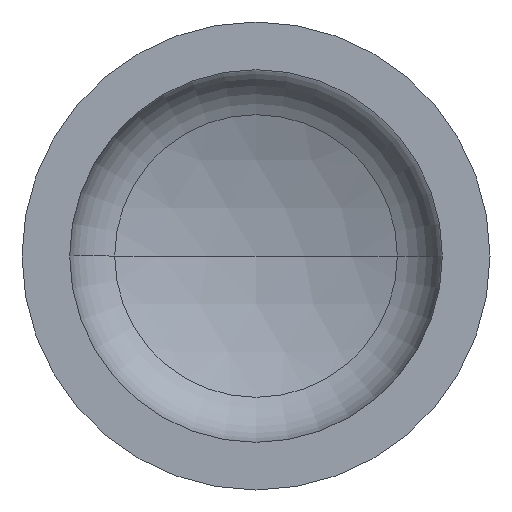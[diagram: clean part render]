
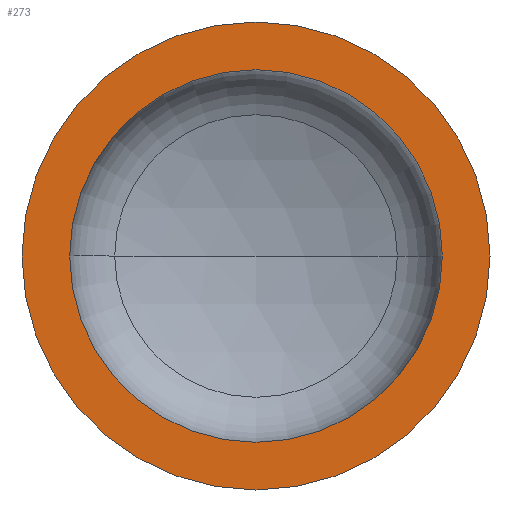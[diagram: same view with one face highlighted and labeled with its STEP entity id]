
A CAD part, front view. The second image highlights one B-rep face of the part: STEP entity #273.
In plain terms, the highlighted planar face has unit normal (0, -1, 0).
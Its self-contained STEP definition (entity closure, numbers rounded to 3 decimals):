
#1 = EDGE_LOOP ( 'NONE', ( #66, #114 ) ) ;
#11 = AXIS2_PLACEMENT_3D ( 'NONE', #23, #214, #335 ) ;
#23 = CARTESIAN_POINT ( 'NONE',  ( 0., 0., 0. ) ) ;
#25 = CARTESIAN_POINT ( 'NONE',  ( -550., 0., 0. ) ) ;
#35 = AXIS2_PLACEMENT_3D ( 'NONE', #25, #176, #185 ) ;
#39 = VERTEX_POINT ( 'NONE', #250 ) ;
#41 = ORIENTED_EDGE ( 'NONE', *, *, #365, .F. ) ;
#48 = PLANE ( 'NONE',  #35 ) ;
#49 = CIRCLE ( 'NONE', #11, 438. ) ;
#51 = EDGE_LOOP ( 'NONE', ( #179, #41 ) ) ;
#63 = VERTEX_POINT ( 'NONE', #357 ) ;
#66 = ORIENTED_EDGE ( 'NONE', *, *, #156, .T. ) ;
#113 = VERTEX_POINT ( 'NONE', #332 ) ;
#114 = ORIENTED_EDGE ( 'NONE', *, *, #164, .T. ) ;
#131 = AXIS2_PLACEMENT_3D ( 'NONE', #303, #300, #189 ) ;
#134 = CIRCLE ( 'NONE', #150, 550. ) ;
#137 = AXIS2_PLACEMENT_3D ( 'NONE', #311, #320, #318 ) ;
#150 = AXIS2_PLACEMENT_3D ( 'NONE', #326, #325, #321 ) ;
#156 = EDGE_CURVE ( 'NONE', #39, #63, #134, .T. ) ;
#164 = EDGE_CURVE ( 'NONE', #63, #39, #402, .T. ) ;
#167 = EDGE_CURVE ( 'NONE', #113, #360, #220, .T. ) ;
#176 = DIRECTION ( 'NONE',  ( 0., 1., 0. ) ) ;
#179 = ORIENTED_EDGE ( 'NONE', *, *, #167, .F. ) ;
#185 = DIRECTION ( 'NONE',  ( -1., 0., 0. ) ) ;
#189 = DIRECTION ( 'NONE',  ( 1., 0., 0. ) ) ;
#206 = FACE_BOUND ( 'NONE', #51, .T. ) ;
#214 = DIRECTION ( 'NONE',  ( 0., -1., 0. ) ) ;
#220 = CIRCLE ( 'NONE', #131, 438. ) ;
#222 = CARTESIAN_POINT ( 'NONE',  ( -438., 0., 0. ) ) ;
#250 = CARTESIAN_POINT ( 'NONE',  ( 550., 0., 0. ) ) ;
#273 = ADVANCED_FACE ( 'NONE', ( #206, #378 ), #48, .F. ) ;
#300 = DIRECTION ( 'NONE',  ( 0., -1., 0. ) ) ;
#303 = CARTESIAN_POINT ( 'NONE',  ( 0., 0., 0. ) ) ;
#311 = CARTESIAN_POINT ( 'NONE',  ( 0., 0., 0. ) ) ;
#318 = DIRECTION ( 'NONE',  ( 1., 0., 0. ) ) ;
#320 = DIRECTION ( 'NONE',  ( 0., -1., 0. ) ) ;
#321 = DIRECTION ( 'NONE',  ( 1., 0., 0. ) ) ;
#325 = DIRECTION ( 'NONE',  ( 0., -1., 0. ) ) ;
#326 = CARTESIAN_POINT ( 'NONE',  ( 0., 0., 0. ) ) ;
#332 = CARTESIAN_POINT ( 'NONE',  ( 438., 0., 0. ) ) ;
#335 = DIRECTION ( 'NONE',  ( 1., 0., 0. ) ) ;
#357 = CARTESIAN_POINT ( 'NONE',  ( -550., 0., 0. ) ) ;
#360 = VERTEX_POINT ( 'NONE', #222 ) ;
#365 = EDGE_CURVE ( 'NONE', #360, #113, #49, .T. ) ;
#378 = FACE_OUTER_BOUND ( 'NONE', #1, .T. ) ;
#402 = CIRCLE ( 'NONE', #137, 550. ) ;
